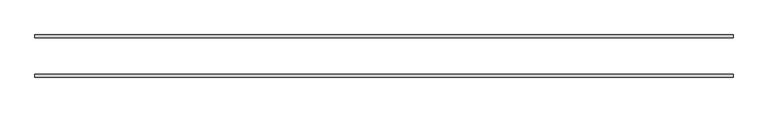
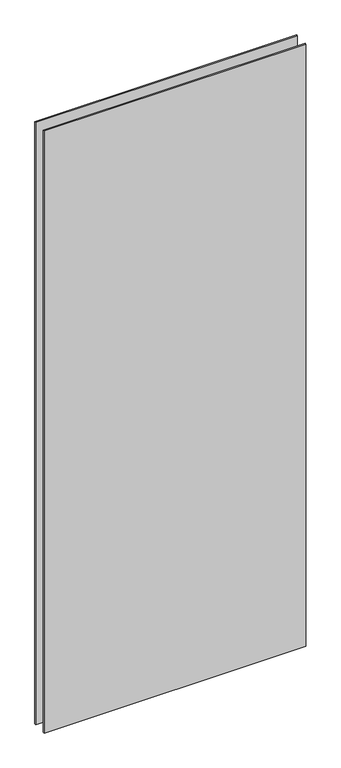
"""IFC4 building model written with IfcOpenShell, lengths in millimetres: plate geometry, VERTI PANORAMA - prosklená výplň : Prosklená výplň."""

from ifc_helpers import new_model, si_unit, origin, origin_with_axes, place, context, project, spatial, polyline, outline, extrude, source, transform, mapped, element, save


def plate_0a3912a2(model_context):
    return source(origin(), model_context, "Body", "SweptSolid", [
        extrude(outline(polyline([(600.0, 36.5), (600.0, 31.5), (-600.0, 31.5), (-600.0, 36.5), (600.0, 36.5)])), origin_with_axes(), (0.0, 0.0, 1.0), 2920.0),
        extrude(outline(polyline([(600.0, -31.5), (600.0, -36.5), (-600.0, -36.5), (-600.0, -31.5), (600.0, -31.5)])), origin_with_axes(), (0.0, 0.0, 1.0), 2920.0),
    ])


if __name__ == "__main__":
    model = new_model("IFC4")
    model_context = context("Model", 3, world=origin())
    ifc_project = project(units=[si_unit("LENGTHUNIT", "METRE", prefix="MILLI")], contexts=[model_context])
    site = spatial("IfcSite", under=ifc_project)
    building = spatial("IfcBuilding", under=site)
    placement = place(None, origin())
    plate_shape = plate_0a3912a2(model_context)
    element("IfcPlate", 1, ObjectType="VERTI PANORAMA - prosklená výplň : Prosklená výplň", at=placement, inside=building, context=model_context, shape_type="MappedRepresentation", body=[
        mapped(plate_shape, transform((0.0, 0.0, 0.0), x_axis=(1.0, 0.0, 0.0), y_axis=(0.0, 1.0, 0.0), z_axis=(0.0, 0.0, 1.0))),
    ])
    save(model, "model.ifc")
